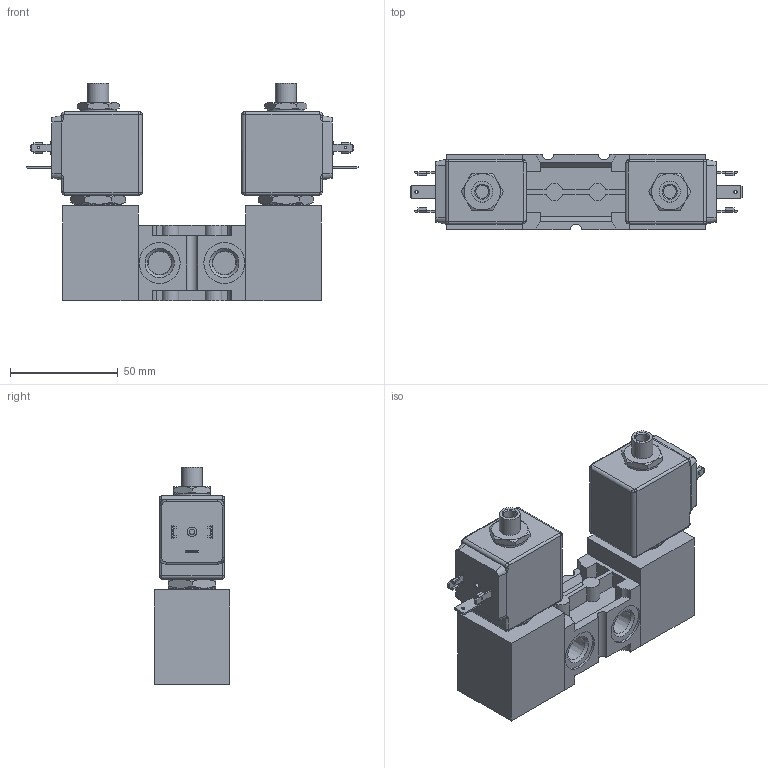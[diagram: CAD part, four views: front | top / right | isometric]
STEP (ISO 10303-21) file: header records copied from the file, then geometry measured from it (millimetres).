
FILE_DESCRIPTION(/* description */ (''),/* implementation_level */ '2;1');
FILE_NAME(/* name */ 'I:\Area Tecnica\Progetti\P118 (OIL&GAS)\DOCUMENTAZIONE\CATALOGO\VALVOLE INOX\LIBRERIA - SS VALV INOX\SS1432######\SS1432C2#2#H.stp',/* time_stamp */ '2016-06-10T11:49:57+02:00',/* author */ ('Maniean1'),/* organization */ ('Pneumax S.p.A.'),/* preprocessor_version */ 'ST-DEVELOPER v15.2',/* originating_system */ 'Autodesk Inventor 2014',/* authorisation */ '');
FILE_SCHEMA (('AUTOMOTIVE_DESIGN { 1 0 10303 214 3 1 1 }'));
Length unit declared in the file: millimetre
Products named in the file (3): #7996; 214-C-MG##; #7998
Bounding box: 154 x 35 x 100.85 mm (x, y, z)
Volume: 247253.3 mm3; surface area: 45039 mm2
Topology: 5 solids, 5 shells, 407 faces, 993 edges, 617 vertices
Faces by surface type: plane 262, cylinder 89, bspline 32, cone 24
Full cylindrical faces by diameter (mm): 1 x4, 1.5 x2, 2.5 x2, 4.4 x4, 6.1 x2, 9.7 x2, 10.719 x3, 16.9 x2, 19 x3, 20.5 x4, 21.8 x2
Entity records: 7964 total; most frequent: CARTESIAN_POINT 1847, DIRECTION 1222, ORIENTED_EDGE 1212, EDGE_CURVE 606, LINE 418, VECTOR 418, VERTEX_POINT 402, AXIS2_PLACEMENT_3D 402
